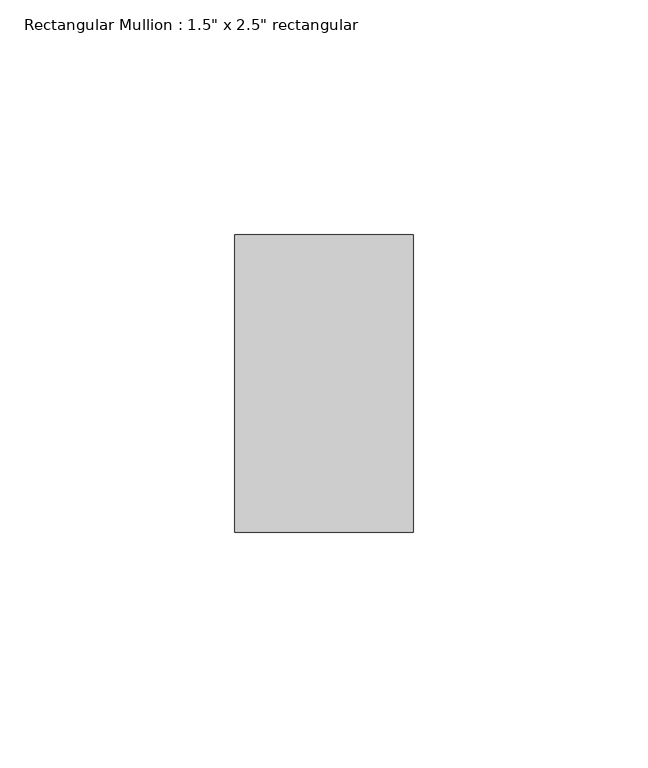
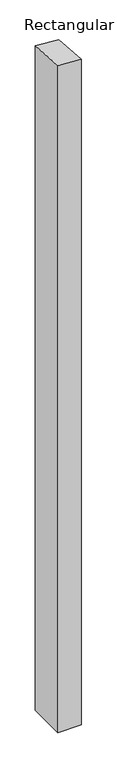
"""IFC4 building model written with IfcOpenShell, lengths in millimetres: member geometry."""

from ifc_helpers import new_model, si_unit, origin, place, context, project, spatial, faceted_brep, source, transform, mapped, element, save


def member_6b1a858c(model_context):
    return source(origin(), model_context, "Body", "Brep", [
        faceted_brep([(0.0, 31.75, -1143.4870564), (0.0, -31.75, -1143.4870564), (-38.1, -31.75, -1143.4870564), (-38.1, 31.75, -1143.4870564), (-38.1, 31.75, 0.4384214), (0.0, 31.75, -2.2783945), (-38.1, -31.75, 4.9952105), (0.0, -31.75, 2.2783945)], [[[0, 1, 2, 3]], [[4, 5, 0, 3]], [[6, 4, 3, 2]], [[7, 6, 2, 1]], [[5, 7, 1, 0]], [[5, 4, 6, 7]]]),
    ])


if __name__ == "__main__":
    model = new_model("IFC4")
    model_context = context("Model", 3, world=origin())
    ifc_project = project(units=[si_unit("LENGTHUNIT", "METRE", prefix="MILLI")], contexts=[model_context])
    site = spatial("IfcSite", under=ifc_project)
    building = spatial("IfcBuilding", under=site)
    placement = place(None, origin())
    member_shape = member_6b1a858c(model_context)
    element("IfcMember", 1, ObjectType="Rectangular Mullion : 1.5\" x 2.5\" rectangular", at=placement, inside=building, context=model_context, shape_type="MappedRepresentation", body=[
        mapped(member_shape, transform((0.0, 0.0, 0.0), x_axis=(1.0, 0.0, 0.0), y_axis=(0.0, 1.0, 0.0), z_axis=(0.0, 0.0, 1.0))),
    ])
    save(model, "model.ifc")
